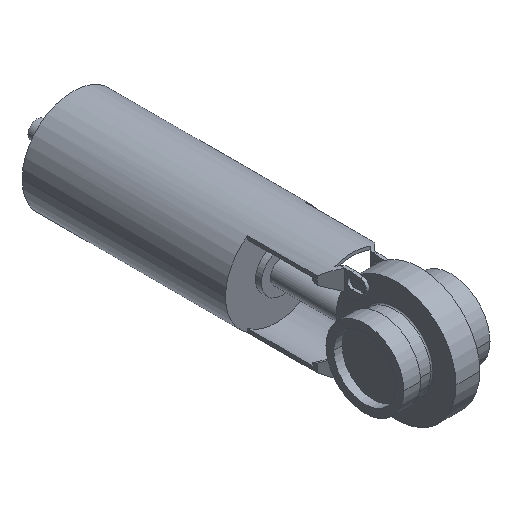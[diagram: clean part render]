
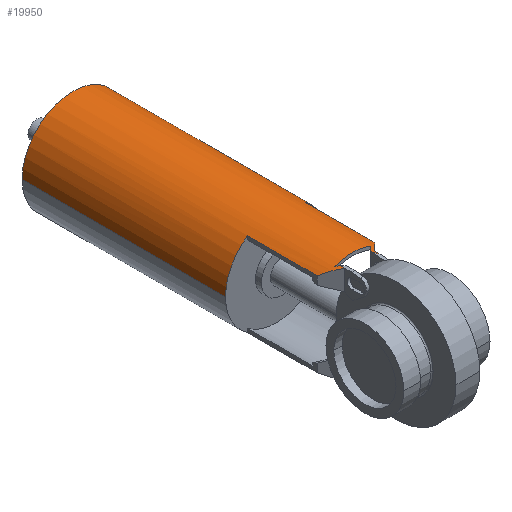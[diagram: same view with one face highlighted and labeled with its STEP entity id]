
A CAD part, isometric view. The second image highlights one B-rep face of the part: STEP entity #19950.
In plain terms, the highlighted cylindrical face has radius 42.5 mm (diameter 85 mm), a partial arc.
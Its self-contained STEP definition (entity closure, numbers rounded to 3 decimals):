
#790=CARTESIAN_POINT('',(-49.686,61.252,
-35.075));
#800=VERTEX_POINT('',#790);
#830=CARTESIAN_POINT('',(-73.686,37.252,0.));
#840=DIRECTION('',(0.707,-0.707,0.));
#850=DIRECTION('',(-0.707,-0.707,0.));
#860=AXIS2_PLACEMENT_3D('',#830,#840,#850);
#870=ELLIPSE('',#860,60.104,42.5);
#880=CARTESIAN_POINT('',(-61.186,49.752,
-40.62));
#890=VERTEX_POINT('',#880);
#900=EDGE_CURVE('',#890,#800,#870,.T.);
#7430=CARTESIAN_POINT('',(-61.186,122.246,
-40.62));
#7440=DIRECTION('',(0.,1.,0.));
#7450=VECTOR('',#7440,1.);
#7460=LINE('',#7430,#7450);
#7470=CARTESIAN_POINT('',(-61.186,53.288,
-40.62));
#7480=VERTEX_POINT('',#7470);
#7490=EDGE_CURVE('',#890,#7480,#7460,.T.);
#16010=CARTESIAN_POINT('',(-83.686,50.788,
-41.307));
#16020=VERTEX_POINT('',#16010);
#16050=CARTESIAN_POINT('',(-83.686,122.246,
-41.307));
#16060=DIRECTION('',(0.,1.,0.));
#16070=VECTOR('',#16060,1.);
#16080=LINE('',#16050,#16070);
#16090=CARTESIAN_POINT('',(-83.686,47.252,
-41.307));
#16100=VERTEX_POINT('',#16090);
#16110=EDGE_CURVE('',#16100,#16020,#16080,.T.);
#17160=CARTESIAN_POINT('',(-86.186,43.297,
-40.62));
#17170=VERTEX_POINT('',#17160);
#17200=CARTESIAN_POINT('',(-86.186,122.246,
-40.62));
#17210=DIRECTION('',(0.,1.,0.));
#17220=VECTOR('',#17210,1.);
#17230=LINE('',#17200,#17220);
#17240=CARTESIAN_POINT('',(-86.186,49.752,
-40.62));
#17250=VERTEX_POINT('',#17240);
#17260=EDGE_CURVE('',#17170,#17250,#17230,.T.);
#17700=CARTESIAN_POINT('',(-73.686,37.252,0.));
#17710=DIRECTION('',(0.707,0.707,0.));
#17720=DIRECTION('',(0.707,-0.707,0.));
#17730=AXIS2_PLACEMENT_3D('',#17700,#17710,#17720);
#17740=ELLIPSE('',#17730,60.104,42.5);
#17750=CARTESIAN_POINT('',(-97.686,61.252,
-35.075));
#17760=VERTEX_POINT('',#17750);
#17770=EDGE_CURVE('',#17250,#17760,#17740,.T.);
#18130=CARTESIAN_POINT('',(-84.334,47.9,
-41.145));
#18140=VERTEX_POINT('',#18130);
#18180=CARTESIAN_POINT('',(-73.686,37.252,0.));
#18190=DIRECTION('',(-0.707,-0.707,-0.));
#18200=DIRECTION('',(-0.707,0.707,0.));
#18210=AXIS2_PLACEMENT_3D('',#18180,#18190,#18200);
#18220=ELLIPSE('',#18210,60.104,42.5);
#18230=EDGE_CURVE('',#18140,#16100,#18220,.T.);
#18330=CARTESIAN_POINT('',(-73.686,-313.222,
0.));
#18340=DIRECTION('',(0.,-0.113,-0.994));
#18350=DIRECTION('',(0.,0.994,-0.113));
#18360=AXIS2_PLACEMENT_3D('',#18330,#18340,#18350);
#18370=ELLIPSE('',#18360,375.431,42.5);
#18380=EDGE_CURVE('',#17170,#18140,#18370,.T.);
#19040=CARTESIAN_POINT('',(-73.686,122.246,0.));
#19050=DIRECTION('',(0.,1.,0.));
#19060=DIRECTION('',(1.,0.,0.));
#19070=AXIS2_PLACEMENT_3D('',#19040,#19050,#19060);
#19080=CYLINDRICAL_SURFACE('',#19070,42.5);
#19090=CARTESIAN_POINT('',(-31.186,122.246,0.));
#19100=DIRECTION('',(0.,1.,0.));
#19110=VECTOR('',#19100,1.);
#19120=LINE('',#19090,#19110);
#19130=CARTESIAN_POINT('',(-31.186,119.246,0.));
#19140=VERTEX_POINT('',#19130);
#19150=CARTESIAN_POINT('',(-31.186,289.246,0.));
#19160=VERTEX_POINT('',#19150);
#19170=EDGE_CURVE('',#19140,#19160,#19120,.T.);
#19180=ORIENTED_EDGE('',*,*,#19170,.F.);
#19190=CARTESIAN_POINT('',(-73.686,289.246,0.));
#19200=DIRECTION('',(0.,1.,0.));
#19210=DIRECTION('',(-1.,0.,0.));
#19220=AXIS2_PLACEMENT_3D('',#19190,#19200,#19210);
#19230=CIRCLE('',#19220,42.5);
#19240=CARTESIAN_POINT('',(-116.186,289.246,
0.));
#19250=VERTEX_POINT('',#19240);
#19260=EDGE_CURVE('',#19160,#19250,#19230,.T.);
#19270=ORIENTED_EDGE('',*,*,#19260,.F.);
#19280=CARTESIAN_POINT('',(-116.186,122.246,
0.));
#19290=DIRECTION('',(0.,1.,0.));
#19300=VECTOR('',#19290,1.);
#19310=LINE('',#19280,#19300);
#19320=CARTESIAN_POINT('',(-116.186,119.246,
0.));
#19330=VERTEX_POINT('',#19320);
#19340=EDGE_CURVE('',#19330,#19250,#19310,.T.);
#19350=ORIENTED_EDGE('',*,*,#19340,.T.);
#19360=CARTESIAN_POINT('',(-73.686,119.246,0.));
#19370=DIRECTION('',(0.,1.,0.));
#19380=DIRECTION('',(-1.,0.,0.));
#19390=AXIS2_PLACEMENT_3D('',#19360,#19370,#19380);
#19400=CIRCLE('',#19390,42.5);
#19410=CARTESIAN_POINT('',(-97.686,119.246,
-35.075));
#19420=VERTEX_POINT('',#19410);
#19430=EDGE_CURVE('',#19420,#19330,#19400,.T.);
#19440=ORIENTED_EDGE('',*,*,#19430,.T.);
#19450=CARTESIAN_POINT('',(-97.686,122.246,
-35.075));
#19460=DIRECTION('',(0.,1.,0.));
#19470=VECTOR('',#19460,1.);
#19480=LINE('',#19450,#19470);
#19490=EDGE_CURVE('',#17760,#19420,#19480,.T.);
#19500=ORIENTED_EDGE('',*,*,#19490,.T.);
#19510=ORIENTED_EDGE('',*,*,#17770,.T.);
#19520=ORIENTED_EDGE('',*,*,#17260,.T.);
#19530=ORIENTED_EDGE('',*,*,#18380,.F.);
#19540=ORIENTED_EDGE('',*,*,#18230,.F.);
#19550=ORIENTED_EDGE('',*,*,#16110,.F.);
#19560=CARTESIAN_POINT('',(-73.686,40.788,0.));
#19570=DIRECTION('',(0.707,0.707,-0.));
#19580=DIRECTION('',(0.707,-0.707,0.));
#19590=AXIS2_PLACEMENT_3D('',#19560,#19570,#19580);
#19600=ELLIPSE('',#19590,60.104,42.5);
#19610=CARTESIAN_POINT('',(-88.744,55.846,
-39.743));
#19620=VERTEX_POINT('',#19610);
#19630=EDGE_CURVE('',#16020,#19620,#19600,.T.);
#19640=ORIENTED_EDGE('',*,*,#19630,.F.);
#19650=CARTESIAN_POINT('',(-73.686,55.846,0.));
#19660=DIRECTION('',(0.,1.,0.));
#19670=DIRECTION('',(-1.,0.,0.));
#19680=AXIS2_PLACEMENT_3D('',#19650,#19660,#19670);
#19690=CIRCLE('',#19680,42.5);
#19700=CARTESIAN_POINT('',(-58.629,55.846,
-39.743));
#19710=VERTEX_POINT('',#19700);
#19720=EDGE_CURVE('',#19710,#19620,#19690,.T.);
#19730=ORIENTED_EDGE('',*,*,#19720,.T.);
#19740=CARTESIAN_POINT('',(-73.686,40.788,
0.));
#19750=DIRECTION('',(-0.707,0.707,0.));
#19760=DIRECTION('',(0.707,0.707,0.));
#19770=AXIS2_PLACEMENT_3D('',#19740,#19750,#19760);
#19780=ELLIPSE('',#19770,60.104,42.5);
#19790=EDGE_CURVE('',#19710,#7480,#19780,.T.);
#19800=ORIENTED_EDGE('',*,*,#19790,.F.);
#19810=ORIENTED_EDGE('',*,*,#7490,.T.);
#19820=ORIENTED_EDGE('',*,*,#900,.F.);
#19830=CARTESIAN_POINT('',(-49.686,122.246,
-35.075));
#19840=DIRECTION('',(0.,1.,0.));
#19850=VECTOR('',#19840,1.);
#19860=LINE('',#19830,#19850);
#19870=CARTESIAN_POINT('',(-49.686,119.246,
-35.075));
#19880=VERTEX_POINT('',#19870);
#19890=EDGE_CURVE('',#800,#19880,#19860,.T.);
#19900=ORIENTED_EDGE('',*,*,#19890,.F.);
#19910=EDGE_CURVE('',#19140,#19880,#19400,.T.);
#19920=ORIENTED_EDGE('',*,*,#19910,.T.);
#19930=EDGE_LOOP('',(#19920,#19900,#19820,#19810,#19800,#19730,#19640,
#19550,#19540,#19530,#19520,#19510,#19500,#19440,#19350,#19270,#19180));
#19940=FACE_OUTER_BOUND('',#19930,.T.);
#19950=ADVANCED_FACE('',(#19940),#19080,.T.);
